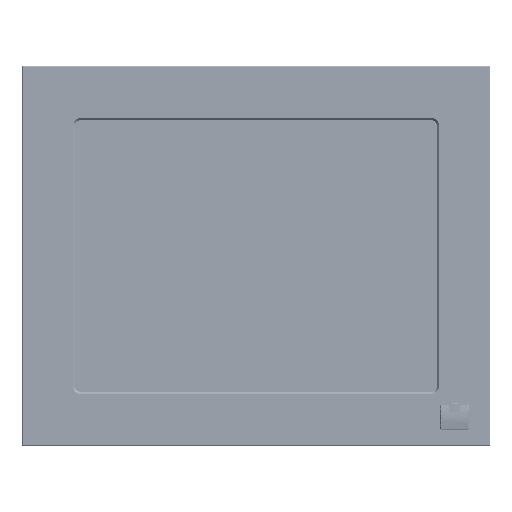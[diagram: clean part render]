
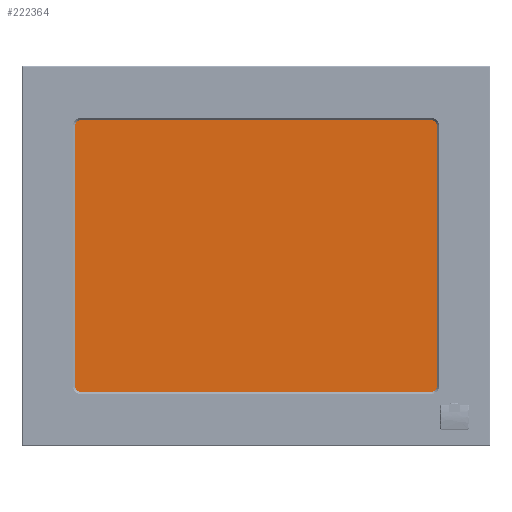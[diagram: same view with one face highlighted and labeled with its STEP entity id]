
A CAD part, top view. The second image highlights one B-rep face of the part: STEP entity #222364.
In plain terms, the highlighted planar face has unit normal (0, 0, 1).
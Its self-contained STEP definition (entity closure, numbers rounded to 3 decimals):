
#1216 = VECTOR ( 'NONE', #230835, 1000. ) ;
#2500 = EDGE_CURVE ( 'NONE', #166317, #166578, #21924, .T. ) ;
#21924 = LINE ( 'NONE', #121868, #195682 ) ;
#24225 = DIRECTION ( 'NONE',  ( -1., 0., 0. ) ) ;
#31527 = CARTESIAN_POINT ( 'NONE',  ( 9.5, 7.75, 2.1 ) ) ;
#49173 = DIRECTION ( 'NONE',  ( 1., 0., 0. ) ) ;
#68451 = LINE ( 'NONE', #259853, #182206 ) ;
#73545 = EDGE_CURVE ( 'NONE', #77676, #166317, #203235, .T. ) ;
#76219 = EDGE_CURVE ( 'NONE', #148583, #77676, #68451, .T. ) ;
#77676 = VERTEX_POINT ( 'NONE', #168277 ) ;
#98398 = EDGE_LOOP ( 'NONE', ( #158487, #111693, #203760, #171940 ) ) ;
#102433 = DIRECTION ( 'NONE',  ( 0., 1., 0. ) ) ;
#111693 = ORIENTED_EDGE ( 'NONE', *, *, #73545, .T. ) ;
#111790 = PLANE ( 'NONE',  #117592 ) ;
#112936 = EDGE_CURVE ( 'NONE', #166578, #148583, #165281, .T. ) ;
#114576 = CARTESIAN_POINT ( 'NONE',  ( 256.5, 7.75, 2.1 ) ) ;
#117592 = AXIS2_PLACEMENT_3D ( 'NONE', #31527, #172686, #49173 ) ;
#117858 = VECTOR ( 'NONE', #24225, 1000. ) ;
#121868 = CARTESIAN_POINT ( 'NONE',  ( 256.5, 193.25, 2.1 ) ) ;
#135387 = CARTESIAN_POINT ( 'NONE',  ( 9.5, 193.25, 2.1 ) ) ;
#144275 = CARTESIAN_POINT ( 'NONE',  ( 9.5, 193.25, 2.1 ) ) ;
#148583 = VERTEX_POINT ( 'NONE', #135387 ) ;
#158487 = ORIENTED_EDGE ( 'NONE', *, *, #76219, .T. ) ;
#165281 = LINE ( 'NONE', #144275, #117858 ) ;
#166317 = VERTEX_POINT ( 'NONE', #114576 ) ;
#166578 = VERTEX_POINT ( 'NONE', #186906 ) ;
#168277 = CARTESIAN_POINT ( 'NONE',  ( 9.5, 7.75, 2.1 ) ) ;
#171940 = ORIENTED_EDGE ( 'NONE', *, *, #112936, .T. ) ;
#172686 = DIRECTION ( 'NONE',  ( 0., 0., 1. ) ) ;
#178644 = DIRECTION ( 'NONE',  ( 0., -1., 0. ) ) ;
#182206 = VECTOR ( 'NONE', #178644, 1000. ) ;
#186906 = CARTESIAN_POINT ( 'NONE',  ( 256.5, 193.25, 2.1 ) ) ;
#195656 = FACE_OUTER_BOUND ( 'NONE', #98398, .T. ) ;
#195682 = VECTOR ( 'NONE', #102433, 1000. ) ;
#203235 = LINE ( 'NONE', #212285, #1216 ) ;
#203760 = ORIENTED_EDGE ( 'NONE', *, *, #2500, .T. ) ;
#212285 = CARTESIAN_POINT ( 'NONE',  ( 9.5, 7.75, 2.1 ) ) ;
#222364 = ADVANCED_FACE ( 'NONE', ( #195656 ), #111790, .T. ) ;
#230835 = DIRECTION ( 'NONE',  ( 1., 0., 0. ) ) ;
#259853 = CARTESIAN_POINT ( 'NONE',  ( 9.5, 193.25, 2.1 ) ) ;
